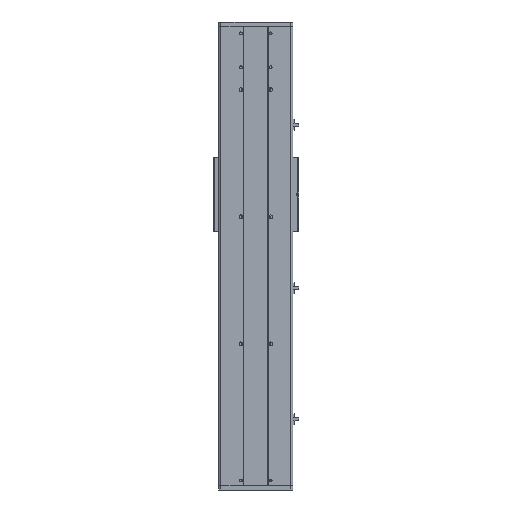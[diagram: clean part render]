
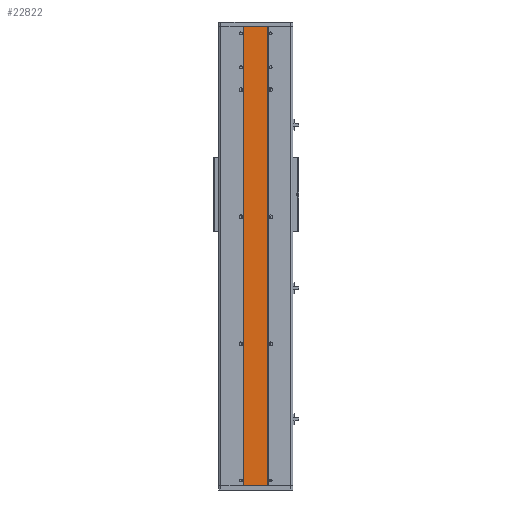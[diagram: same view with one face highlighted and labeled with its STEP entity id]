
A CAD part, front view. The second image highlights one B-rep face of the part: STEP entity #22822.
In plain terms, the highlighted planar face has unit normal (0, -1, 0).
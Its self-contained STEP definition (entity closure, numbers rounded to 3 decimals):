
#3 = LINE ( 'NONE', #31714, #32833 ) ;
#806 = VERTEX_POINT ( 'NONE', #25347 ) ;
#1956 = LINE ( 'NONE', #13425, #8059 ) ;
#2404 = EDGE_CURVE ( 'NONE', #21508, #29863, #25184, .T. ) ;
#3241 = LINE ( 'NONE', #11983, #9329 ) ;
#3682 = ORIENTED_EDGE ( 'NONE', *, *, #16511, .F. ) ;
#3834 = ORIENTED_EDGE ( 'NONE', *, *, #21759, .T. ) ;
#5873 = DIRECTION ( 'NONE',  ( -1., 0., 0. ) ) ;
#7032 = VECTOR ( 'NONE', #9860, 1000. ) ;
#8059 = VECTOR ( 'NONE', #29027, 1000. ) ;
#8833 = VERTEX_POINT ( 'NONE', #32139 ) ;
#9329 = VECTOR ( 'NONE', #30068, 1000. ) ;
#9665 = EDGE_CURVE ( 'NONE', #8833, #29863, #3, .T. ) ;
#9860 = DIRECTION ( 'NONE',  ( 0., 0., 1. ) ) ;
#9906 = DIRECTION ( 'NONE',  ( 0., 0., 1. ) ) ;
#11627 = AXIS2_PLACEMENT_3D ( 'NONE', #20509, #25376, #9906 ) ;
#11983 = CARTESIAN_POINT ( 'NONE',  ( 0., -85.314, 0. ) ) ;
#13425 = CARTESIAN_POINT ( 'NONE',  ( 58.27, -85.314, -795. ) ) ;
#16511 = EDGE_CURVE ( 'NONE', #806, #21508, #3241, .T. ) ;
#17880 = PLANE ( 'NONE',  #11627 ) ;
#18235 = ORIENTED_EDGE ( 'NONE', *, *, #2404, .F. ) ;
#20509 = CARTESIAN_POINT ( 'NONE',  ( 1.27, -85.314, -795. ) ) ;
#21508 = VERTEX_POINT ( 'NONE', #32973 ) ;
#21759 = EDGE_CURVE ( 'NONE', #806, #8833, #1956, .T. ) ;
#22822 = ADVANCED_FACE ( 'NONE', ( #31065 ), #17880, .F. ) ;
#25184 = LINE ( 'NONE', #33108, #7032 ) ;
#25347 = CARTESIAN_POINT ( 'NONE',  ( 58.27, -85.314, 0. ) ) ;
#25376 = DIRECTION ( 'NONE',  ( 0., 1., 0. ) ) ;
#26838 = EDGE_LOOP ( 'NONE', ( #3834, #28745, #18235, #3682 ) ) ;
#27187 = CARTESIAN_POINT ( 'NONE',  ( 1.27, -85.314, 1085. ) ) ;
#28745 = ORIENTED_EDGE ( 'NONE', *, *, #9665, .T. ) ;
#29027 = DIRECTION ( 'NONE',  ( 0., 0., 1. ) ) ;
#29863 = VERTEX_POINT ( 'NONE', #27187 ) ;
#30068 = DIRECTION ( 'NONE',  ( -1., 0., 0. ) ) ;
#31065 = FACE_OUTER_BOUND ( 'NONE', #26838, .T. ) ;
#31714 = CARTESIAN_POINT ( 'NONE',  ( 1.27, -85.314, 1085. ) ) ;
#32139 = CARTESIAN_POINT ( 'NONE',  ( 58.27, -85.314, 1085. ) ) ;
#32833 = VECTOR ( 'NONE', #5873, 1000. ) ;
#32973 = CARTESIAN_POINT ( 'NONE',  ( 1.27, -85.314, 0. ) ) ;
#33108 = CARTESIAN_POINT ( 'NONE',  ( 1.27, -85.314, -795. ) ) ;
